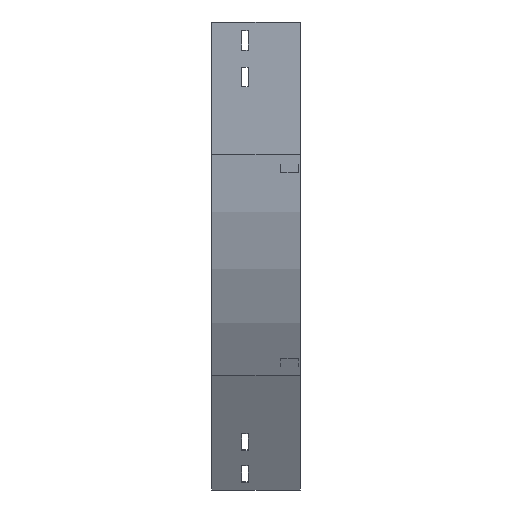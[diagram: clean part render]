
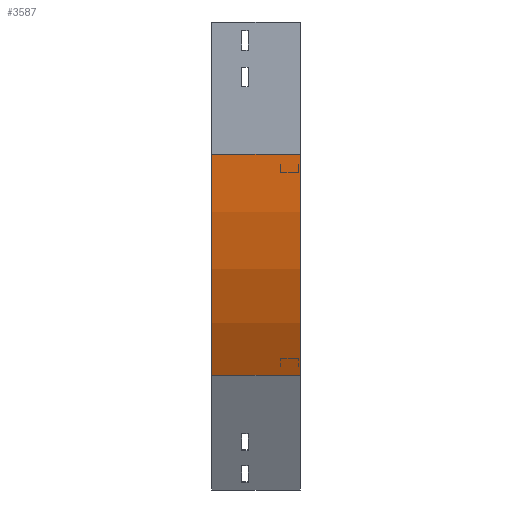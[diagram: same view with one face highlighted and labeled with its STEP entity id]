
A CAD part, left-side view. The second image highlights one B-rep face of the part: STEP entity #3587.
In plain terms, the highlighted cylindrical face has radius 500 mm (diameter 1000 mm), a partial arc.
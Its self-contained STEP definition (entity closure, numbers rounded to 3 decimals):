
#150 = EDGE_CURVE ( 'NONE', #3166, #223, #2078, .T. ) ;
#155 = AXIS2_PLACEMENT_3D ( 'NONE', #1342, #748, #2597 ) ;
#175 = VECTOR ( 'NONE', #2015, 1000. ) ;
#223 = VERTEX_POINT ( 'NONE', #721 ) ;
#264 = EDGE_CURVE ( 'NONE', #3166, #1008, #1572, .T. ) ;
#324 = ORIENTED_EDGE ( 'NONE', *, *, #1340, .T. ) ;
#592 = CIRCLE ( 'NONE', #155, 500. ) ;
#603 = CARTESIAN_POINT ( 'NONE',  ( 0., 0., -150. ) ) ;
#721 = CARTESIAN_POINT ( 'NONE',  ( 0., 0., -150. ) ) ;
#745 = CARTESIAN_POINT ( 'NONE',  ( 500., 0., -150. ) ) ;
#748 = DIRECTION ( 'NONE',  ( 0., -1., 0. ) ) ;
#817 = DIRECTION ( 'NONE',  ( 0., -1., 0. ) ) ;
#951 = AXIS2_PLACEMENT_3D ( 'NONE', #3631, #1567, #3358 ) ;
#1008 = VERTEX_POINT ( 'NONE', #3242 ) ;
#1196 = VECTOR ( 'NONE', #1792, 1000. ) ;
#1322 = CYLINDRICAL_SURFACE ( 'NONE', #1885, 500. ) ;
#1340 = EDGE_CURVE ( 'NONE', #1008, #2528, #2883, .T. ) ;
#1342 = CARTESIAN_POINT ( 'NONE',  ( 500., 0., -150. ) ) ;
#1556 = ORIENTED_EDGE ( 'NONE', *, *, #150, .F. ) ;
#1567 = DIRECTION ( 'NONE',  ( 0., -1., 0. ) ) ;
#1572 = CIRCLE ( 'NONE', #951, 500. ) ;
#1792 = DIRECTION ( 'NONE',  ( 0., -1., 0. ) ) ;
#1885 = AXIS2_PLACEMENT_3D ( 'NONE', #745, #817, #3773 ) ;
#1928 = FACE_OUTER_BOUND ( 'NONE', #2296, .T. ) ;
#2015 = DIRECTION ( 'NONE',  ( 0., -1., 0. ) ) ;
#2078 = LINE ( 'NONE', #603, #1196 ) ;
#2223 = CARTESIAN_POINT ( 'NONE',  ( 0., 100., -150. ) ) ;
#2296 = EDGE_LOOP ( 'NONE', ( #2965, #1556, #3457, #324 ) ) ;
#2312 = CARTESIAN_POINT ( 'NONE',  ( 66.987, 0., -400. ) ) ;
#2528 = VERTEX_POINT ( 'NONE', #3518 ) ;
#2597 = DIRECTION ( 'NONE',  ( -1., 0., 0. ) ) ;
#2883 = LINE ( 'NONE', #2312, #175 ) ;
#2965 = ORIENTED_EDGE ( 'NONE', *, *, #3218, .F. ) ;
#3166 = VERTEX_POINT ( 'NONE', #2223 ) ;
#3218 = EDGE_CURVE ( 'NONE', #223, #2528, #592, .T. ) ;
#3242 = CARTESIAN_POINT ( 'NONE',  ( 66.987, 100., -400. ) ) ;
#3358 = DIRECTION ( 'NONE',  ( -1., 0., 0. ) ) ;
#3457 = ORIENTED_EDGE ( 'NONE', *, *, #264, .T. ) ;
#3518 = CARTESIAN_POINT ( 'NONE',  ( 66.987, 0., -400. ) ) ;
#3587 = ADVANCED_FACE ( 'NONE', ( #1928 ), #1322, .T. ) ;
#3631 = CARTESIAN_POINT ( 'NONE',  ( 500., 100., -150. ) ) ;
#3773 = DIRECTION ( 'NONE',  ( 0., 0., -1. ) ) ;
